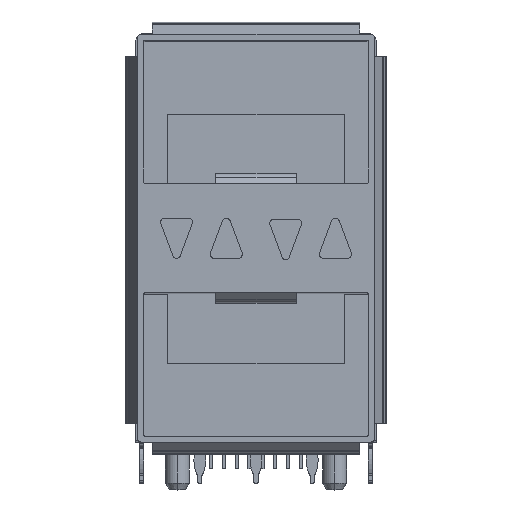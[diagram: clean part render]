
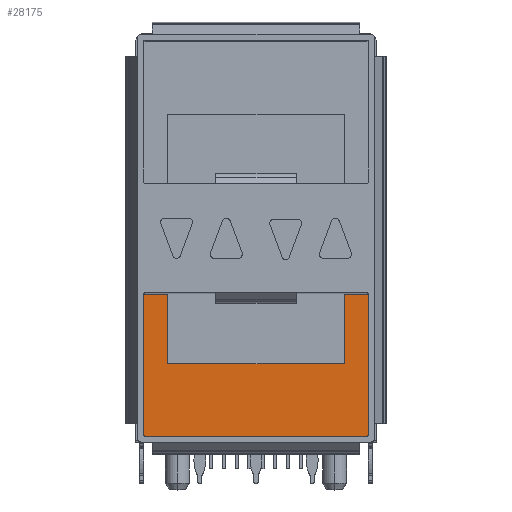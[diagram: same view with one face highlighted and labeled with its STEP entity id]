
A CAD part, top view. The second image highlights one B-rep face of the part: STEP entity #28175.
In plain terms, the highlighted planar face has unit normal (0, 0, 1).
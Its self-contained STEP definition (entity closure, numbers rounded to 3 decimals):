
#1071 = DIRECTION ( 'NONE',  ( 0., 0., -1. ) ) ;
#1250 = VERTEX_POINT ( 'NONE', #11259 ) ;
#1585 = EDGE_CURVE ( 'NONE', #1250, #9754, #29267, .T. ) ;
#1744 = LINE ( 'NONE', #21808, #18664 ) ;
#2366 = CARTESIAN_POINT ( 'NONE',  ( 6.9, 9.2, -48.55 ) ) ;
#3087 = EDGE_CURVE ( 'NONE', #9754, #29063, #13316, .T. ) ;
#3162 = CARTESIAN_POINT ( 'NONE',  ( -5.5, 9.2, -48.55 ) ) ;
#4158 = CARTESIAN_POINT ( 'NONE',  ( -5.5, 9.2, -48.55 ) ) ;
#4382 = CARTESIAN_POINT ( 'NONE',  ( 5.5, 4.85, -48.55 ) ) ;
#4387 = CIRCLE ( 'NONE', #5438, 0.1 ) ;
#4524 = DIRECTION ( 'NONE',  ( 0., 0., -1. ) ) ;
#4570 = ORIENTED_EDGE ( 'NONE', *, *, #29277, .F. ) ;
#4818 = VERTEX_POINT ( 'NONE', #21260 ) ;
#5036 = LINE ( 'NONE', #9875, #14255 ) ;
#5293 = VERTEX_POINT ( 'NONE', #4158 ) ;
#5438 = AXIS2_PLACEMENT_3D ( 'NONE', #22049, #25252, #17992 ) ;
#6155 = EDGE_CURVE ( 'NONE', #29063, #16235, #8476, .T. ) ;
#6829 = VERTEX_POINT ( 'NONE', #9523 ) ;
#7275 = ORIENTED_EDGE ( 'NONE', *, *, #1585, .F. ) ;
#8476 = LINE ( 'NONE', #24732, #19219 ) ;
#8525 = AXIS2_PLACEMENT_3D ( 'NONE', #27997, #1071, #18264 ) ;
#8901 = LINE ( 'NONE', #24457, #29977 ) ;
#9352 = DIRECTION ( 'NONE',  ( 0., 1., 0. ) ) ;
#9523 = CARTESIAN_POINT ( 'NONE',  ( -6.9, 0.25, -48.55 ) ) ;
#9754 = VERTEX_POINT ( 'NONE', #2366 ) ;
#9875 = CARTESIAN_POINT ( 'NONE',  ( -7., 0.35, -48.55 ) ) ;
#10015 = CARTESIAN_POINT ( 'NONE',  ( 7., 0.35, -48.55 ) ) ;
#10474 = AXIS2_PLACEMENT_3D ( 'NONE', #16001, #15694, #20620 ) ;
#11259 = CARTESIAN_POINT ( 'NONE',  ( 5.5, 9.2, -48.55 ) ) ;
#11504 = ORIENTED_EDGE ( 'NONE', *, *, #20335, .F. ) ;
#11842 = CARTESIAN_POINT ( 'NONE',  ( -7., 0.35, -48.55 ) ) ;
#11858 = PLANE ( 'NONE',  #29363 ) ;
#12101 = CARTESIAN_POINT ( 'NONE',  ( 6.9, 0.25, -48.55 ) ) ;
#12121 = AXIS2_PLACEMENT_3D ( 'NONE', #20116, #24916, #27499 ) ;
#12197 = VERTEX_POINT ( 'NONE', #19754 ) ;
#12697 = EDGE_CURVE ( 'NONE', #17766, #6829, #31143, .T. ) ;
#13316 = CIRCLE ( 'NONE', #8525, 0.1 ) ;
#13516 = EDGE_CURVE ( 'NONE', #16235, #17766, #26526, .T. ) ;
#13741 = VERTEX_POINT ( 'NONE', #28824 ) ;
#13948 = EDGE_CURVE ( 'NONE', #21126, #12197, #5036, .T. ) ;
#14147 = LINE ( 'NONE', #4382, #27952 ) ;
#14255 = VECTOR ( 'NONE', #29458, 1000. ) ;
#14367 = ORIENTED_EDGE ( 'NONE', *, *, #12697, .F. ) ;
#14527 = DIRECTION ( 'NONE',  ( -1., 0., 0. ) ) ;
#15694 = DIRECTION ( 'NONE',  ( 0., 0., -1. ) ) ;
#16001 = CARTESIAN_POINT ( 'NONE',  ( 6.9, 0.35, -48.55 ) ) ;
#16235 = VERTEX_POINT ( 'NONE', #10015 ) ;
#16892 = ORIENTED_EDGE ( 'NONE', *, *, #13516, .F. ) ;
#17736 = CIRCLE ( 'NONE', #12121, 0.1 ) ;
#17766 = VERTEX_POINT ( 'NONE', #21310 ) ;
#17992 = DIRECTION ( 'NONE',  ( -1., 0., 0. ) ) ;
#18264 = DIRECTION ( 'NONE',  ( -1., 0., 0. ) ) ;
#18388 = ORIENTED_EDGE ( 'NONE', *, *, #6155, .F. ) ;
#18450 = EDGE_CURVE ( 'NONE', #4818, #18493, #1744, .T. ) ;
#18493 = VERTEX_POINT ( 'NONE', #29066 ) ;
#18664 = VECTOR ( 'NONE', #31645, 1000. ) ;
#19219 = VECTOR ( 'NONE', #24935, 1000. ) ;
#19624 = FACE_OUTER_BOUND ( 'NONE', #23172, .T. ) ;
#19754 = CARTESIAN_POINT ( 'NONE',  ( -7., 9.1, -48.55 ) ) ;
#20116 = CARTESIAN_POINT ( 'NONE',  ( -6.9, 0.35, -48.55 ) ) ;
#20335 = EDGE_CURVE ( 'NONE', #13741, #5293, #21628, .T. ) ;
#20420 = CARTESIAN_POINT ( 'NONE',  ( 7., 9.1, -48.55 ) ) ;
#20620 = DIRECTION ( 'NONE',  ( -1., 0., 0. ) ) ;
#20886 = DIRECTION ( 'NONE',  ( 1., 0., 0. ) ) ;
#21126 = VERTEX_POINT ( 'NONE', #11842 ) ;
#21260 = CARTESIAN_POINT ( 'NONE',  ( -5.5, 4.85, -48.55 ) ) ;
#21310 = CARTESIAN_POINT ( 'NONE',  ( 6.9, 0.25, -48.55 ) ) ;
#21628 = LINE ( 'NONE', #3162, #28883 ) ;
#21808 = CARTESIAN_POINT ( 'NONE',  ( -5.5, 4.85, -48.55 ) ) ;
#21871 = ORIENTED_EDGE ( 'NONE', *, *, #18450, .F. ) ;
#22049 = CARTESIAN_POINT ( 'NONE',  ( -6.9, 9.1, -48.55 ) ) ;
#22313 = DIRECTION ( 'NONE',  ( 1., 0., 0. ) ) ;
#22543 = EDGE_CURVE ( 'NONE', #6829, #21126, #17736, .T. ) ;
#22703 = EDGE_CURVE ( 'NONE', #5293, #4818, #8901, .T. ) ;
#22991 = ORIENTED_EDGE ( 'NONE', *, *, #13948, .F. ) ;
#23172 = EDGE_LOOP ( 'NONE', ( #18388, #27703, #7275, #4570, #21871, #26233, #11504, #24360, #22991, #24599, #14367, #16892 ) ) ;
#24352 = CARTESIAN_POINT ( 'NONE',  ( 5.5, 9.2, -48.55 ) ) ;
#24360 = ORIENTED_EDGE ( 'NONE', *, *, #31469, .F. ) ;
#24457 = CARTESIAN_POINT ( 'NONE',  ( -5.5, 4.85, -48.55 ) ) ;
#24599 = ORIENTED_EDGE ( 'NONE', *, *, #22543, .F. ) ;
#24732 = CARTESIAN_POINT ( 'NONE',  ( 7., 9.1, -48.55 ) ) ;
#24916 = DIRECTION ( 'NONE',  ( 0., 0., -1. ) ) ;
#24935 = DIRECTION ( 'NONE',  ( 0., -1., 0. ) ) ;
#25252 = DIRECTION ( 'NONE',  ( 0., 0., -1. ) ) ;
#25842 = VECTOR ( 'NONE', #22313, 1000. ) ;
#26233 = ORIENTED_EDGE ( 'NONE', *, *, #22703, .F. ) ;
#26526 = CIRCLE ( 'NONE', #10474, 0.1 ) ;
#26934 = DIRECTION ( 'NONE',  ( 0., -1., 0. ) ) ;
#27499 = DIRECTION ( 'NONE',  ( -1., 0., 0. ) ) ;
#27703 = ORIENTED_EDGE ( 'NONE', *, *, #3087, .F. ) ;
#27952 = VECTOR ( 'NONE', #9352, 1000. ) ;
#27997 = CARTESIAN_POINT ( 'NONE',  ( 6.9, 9.1, -48.55 ) ) ;
#28175 = ADVANCED_FACE ( 'NONE', ( #19624 ), #11858, .F. ) ;
#28824 = CARTESIAN_POINT ( 'NONE',  ( -6.9, 9.2, -48.55 ) ) ;
#28883 = VECTOR ( 'NONE', #20886, 1000. ) ;
#28976 = CARTESIAN_POINT ( 'NONE',  ( -7.25, 25.2, -48.55 ) ) ;
#29063 = VERTEX_POINT ( 'NONE', #20420 ) ;
#29066 = CARTESIAN_POINT ( 'NONE',  ( 5.5, 4.85, -48.55 ) ) ;
#29267 = LINE ( 'NONE', #24352, #25842 ) ;
#29277 = EDGE_CURVE ( 'NONE', #18493, #1250, #14147, .T. ) ;
#29363 = AXIS2_PLACEMENT_3D ( 'NONE', #28976, #4524, #14527 ) ;
#29428 = DIRECTION ( 'NONE',  ( -1., 0., 0. ) ) ;
#29458 = DIRECTION ( 'NONE',  ( 0., 1., 0. ) ) ;
#29977 = VECTOR ( 'NONE', #26934, 1000. ) ;
#30017 = VECTOR ( 'NONE', #29428, 1000. ) ;
#31143 = LINE ( 'NONE', #12101, #30017 ) ;
#31469 = EDGE_CURVE ( 'NONE', #12197, #13741, #4387, .T. ) ;
#31645 = DIRECTION ( 'NONE',  ( 1., 0., 0. ) ) ;
